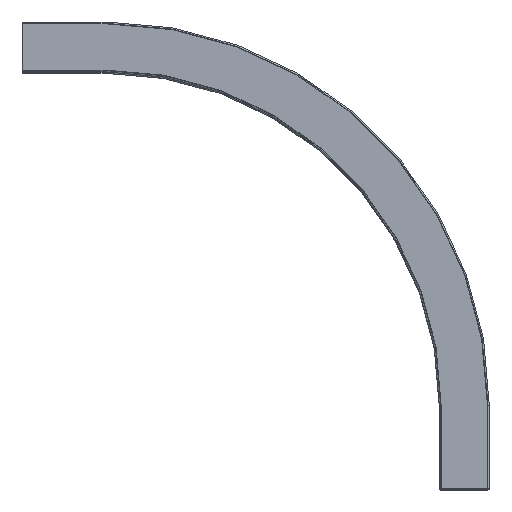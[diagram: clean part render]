
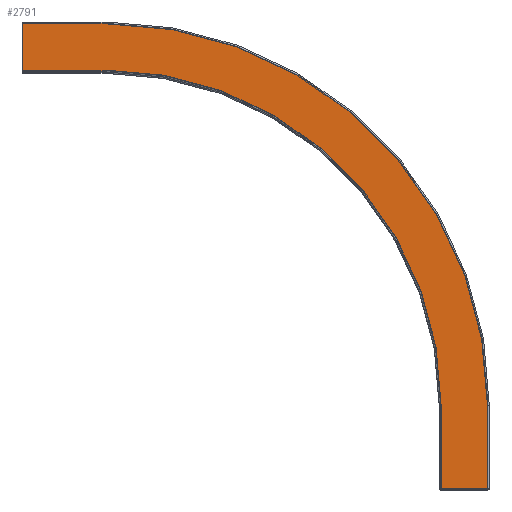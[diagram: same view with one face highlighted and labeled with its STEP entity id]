
A CAD part, top view. The second image highlights one B-rep face of the part: STEP entity #2791.
In plain terms, the highlighted planar face has unit normal (0, 0, 1).
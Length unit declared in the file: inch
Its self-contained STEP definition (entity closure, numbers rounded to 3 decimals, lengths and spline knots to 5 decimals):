
#317 = EDGE_LOOP ( 'NONE', ( #1868, #1899, #1947, #1946, #2008, #1911, #1948, #1255 ) ) ;
#352 = EDGE_CURVE ( 'NONE', #2252, #2244, #1622, .T. ) ;
#449 = AXIS2_PLACEMENT_3D ( 'NONE', #1048, #1039, #1038 ) ;
#484 = AXIS2_PLACEMENT_3D ( 'NONE', #867, #791, #780 ) ;
#557 = EDGE_CURVE ( 'NONE', #2255, #2346, #1368, .T. ) ;
#567 = EDGE_CURVE ( 'NONE', #2290, #2325, #1453, .T. ) ;
#569 = EDGE_CURVE ( 'NONE', #2346, #2290, #1439, .T. ) ;
#575 = EDGE_CURVE ( 'NONE', #2325, #2318, #1470, .T. ) ;
#592 = AXIS2_PLACEMENT_3D ( 'NONE', #2593, #2626, #2627 ) ;
#630 = EDGE_CURVE ( 'NONE', #2252, #2318, #1293, .T. ) ;
#697 = EDGE_CURVE ( 'NONE', #2244, #2198, #1633, .T. ) ;
#711 = EDGE_CURVE ( 'NONE', #2198, #2255, #1634, .T. ) ;
#764 = CARTESIAN_POINT ( 'NONE',  ( -2.5, 10.04, 24. ) ) ;
#780 = DIRECTION ( 'NONE',  ( -1., 0., 0. ) ) ;
#791 = DIRECTION ( 'NONE',  ( 0., 0., -1. ) ) ;
#867 = CARTESIAN_POINT ( 'NONE',  ( 0., 10., 24. ) ) ;
#898 = CARTESIAN_POINT ( 'NONE',  ( 10.04, 0., 24. ) ) ;
#945 = PLANE ( 'NONE',  #484 ) ;
#1015 = DIRECTION ( 'NONE',  ( -1., 0., 0. ) ) ;
#1016 = CARTESIAN_POINT ( 'NONE',  ( 0., 11.46, 24. ) ) ;
#1038 = DIRECTION ( 'NONE',  ( -1., 0., 0. ) ) ;
#1039 = DIRECTION ( 'NONE',  ( 0., 0., 1. ) ) ;
#1048 = CARTESIAN_POINT ( 'NONE',  ( 0., 0., 24. ) ) ;
#1074 = CARTESIAN_POINT ( 'NONE',  ( -2.5, 11.46, 24. ) ) ;
#1077 = CARTESIAN_POINT ( 'NONE',  ( 11.46, -2.5, 24. ) ) ;
#1082 = CARTESIAN_POINT ( 'NONE',  ( 11.46, 0., 24. ) ) ;
#1122 = CARTESIAN_POINT ( 'NONE',  ( 0., 11.46, 24. ) ) ;
#1159 = CARTESIAN_POINT ( 'NONE',  ( 10.04, -2.5, 24. ) ) ;
#1216 = CARTESIAN_POINT ( 'NONE',  ( 0., 10.04, 24. ) ) ;
#1249 = VECTOR ( 'NONE', #2218, 39.37008 ) ;
#1255 = ORIENTED_EDGE ( 'NONE', *, *, #711, .T. ) ;
#1292 = VECTOR ( 'NONE', #2708, 39.37008 ) ;
#1293 = LINE ( 'NONE', #2707, #1292 ) ;
#1368 = LINE ( 'NONE', #2612, #1753 ) ;
#1432 = VECTOR ( 'NONE', #2631, 39.37008 ) ;
#1439 = LINE ( 'NONE', #2630, #1432 ) ;
#1453 = CIRCLE ( 'NONE', #592, 10.04 ) ;
#1470 = LINE ( 'NONE', #2637, #1473 ) ;
#1473 = VECTOR ( 'NONE', #2638, 39.37008 ) ;
#1537 = FACE_OUTER_BOUND ( 'NONE', #317, .T. ) ;
#1622 = LINE ( 'NONE', #2335, #1249 ) ;
#1633 = CIRCLE ( 'NONE', #449, 11.46 ) ;
#1634 = LINE ( 'NONE', #1016, #1653 ) ;
#1653 = VECTOR ( 'NONE', #1015, 39.37008 ) ;
#1753 = VECTOR ( 'NONE', #2613, 39.37008 ) ;
#1868 = ORIENTED_EDGE ( 'NONE', *, *, #557, .T. ) ;
#1899 = ORIENTED_EDGE ( 'NONE', *, *, #569, .T. ) ;
#1911 = ORIENTED_EDGE ( 'NONE', *, *, #352, .T. ) ;
#1946 = ORIENTED_EDGE ( 'NONE', *, *, #575, .T. ) ;
#1947 = ORIENTED_EDGE ( 'NONE', *, *, #567, .T. ) ;
#1948 = ORIENTED_EDGE ( 'NONE', *, *, #697, .T. ) ;
#2008 = ORIENTED_EDGE ( 'NONE', *, *, #630, .F. ) ;
#2198 = VERTEX_POINT ( 'NONE', #1122 ) ;
#2218 = DIRECTION ( 'NONE',  ( 0., 1., 0. ) ) ;
#2244 = VERTEX_POINT ( 'NONE', #1082 ) ;
#2252 = VERTEX_POINT ( 'NONE', #1077 ) ;
#2255 = VERTEX_POINT ( 'NONE', #1074 ) ;
#2290 = VERTEX_POINT ( 'NONE', #1216 ) ;
#2318 = VERTEX_POINT ( 'NONE', #1159 ) ;
#2325 = VERTEX_POINT ( 'NONE', #898 ) ;
#2335 = CARTESIAN_POINT ( 'NONE',  ( 11.46, 0., 24. ) ) ;
#2346 = VERTEX_POINT ( 'NONE', #764 ) ;
#2593 = CARTESIAN_POINT ( 'NONE',  ( 0., 0., 24. ) ) ;
#2612 = CARTESIAN_POINT ( 'NONE',  ( -2.5, 10., 24. ) ) ;
#2613 = DIRECTION ( 'NONE',  ( 0., -1., 0. ) ) ;
#2626 = DIRECTION ( 'NONE',  ( 0., 0., -1. ) ) ;
#2627 = DIRECTION ( 'NONE',  ( -1., 0., 0. ) ) ;
#2630 = CARTESIAN_POINT ( 'NONE',  ( 0., 10.04, 24. ) ) ;
#2631 = DIRECTION ( 'NONE',  ( 1., 0., 0. ) ) ;
#2637 = CARTESIAN_POINT ( 'NONE',  ( 10.04, -2.5, 24. ) ) ;
#2638 = DIRECTION ( 'NONE',  ( 0., -1., 0. ) ) ;
#2707 = CARTESIAN_POINT ( 'NONE',  ( 10., -2.5, 24. ) ) ;
#2708 = DIRECTION ( 'NONE',  ( -1., 0., 0. ) ) ;
#2791 = ADVANCED_FACE ( 'NONE', ( #1537 ), #945, .F. ) ;
